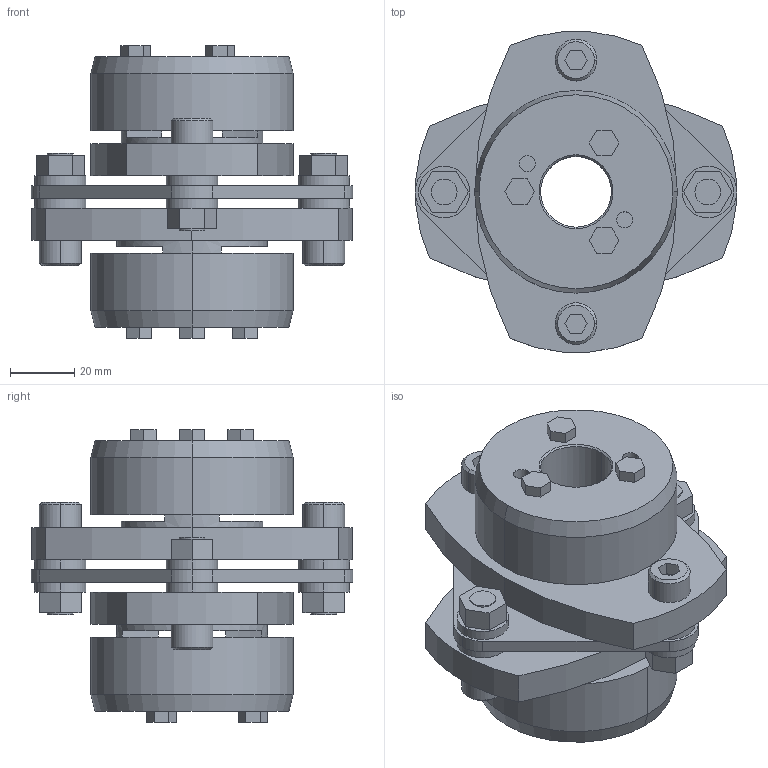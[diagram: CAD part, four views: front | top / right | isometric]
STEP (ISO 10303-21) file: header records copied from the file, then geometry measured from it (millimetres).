
FILE_DESCRIPTION((''),'2;1');
FILE_NAME('LCS-100T7-22×24.stp','2015-11-02T07:38:59',(''),(''),'AutoCAD STEP 2000i','AutoCAD 2000i',', , ');
FILE_SCHEMA(('CONFIG_CONTROL_DESIGN'));
Length unit declared in the file: millimetre
Products named in the file (6): LCS-100T7-22×25; 忣兜1; LC100T7-T025; LC100T7-T022-1; LC100T7-T022; LCS100-ITA
Assembly tree (5 placements, depth 2):
  LCS-100T7-22×25
    忣兜1
    LC100T7-T025
    LC100T7-T022-1
    LC100T7-T022
    LCS100-ITA
Bounding box: 100 x 99.93 x 91 mm (x, y, z)
Volume: 258185.9 mm3; surface area: 62922.7 mm2
Topology: 1 solids, 1 shells, 232 faces, 568 edges, 372 vertices
Faces by surface type: plane 132, cylinder 80, cone 20
Entity records: 7049 total; most frequent: DIRECTION 1240, CARTESIAN_POINT 1178, ORIENTED_EDGE 1136, EDGE_CURVE 568, AXIS2_PLACEMENT_3D 434, VERTEX_POINT 372, VECTOR 372, LINE 372
